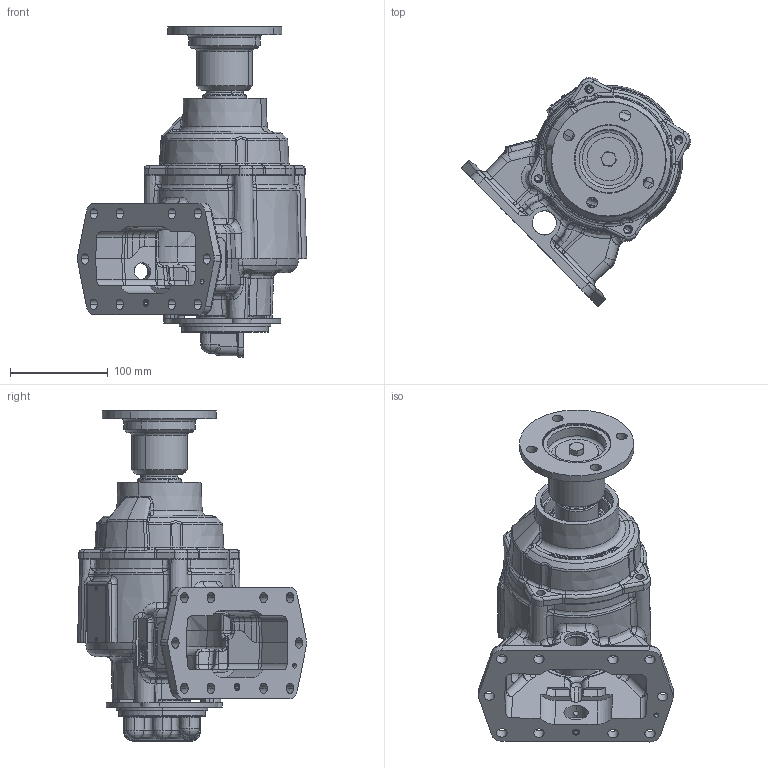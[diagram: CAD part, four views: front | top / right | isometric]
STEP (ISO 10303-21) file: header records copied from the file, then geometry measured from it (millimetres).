
FILE_DESCRIPTION (( 'STEP AP203' ), '1' );
FILE_NAME ('A30-A10XX-MX5X4PX.STEP', '2023-03-07T20:05:50', ( '' ), ( '' ), 'SwSTEP 2.0', 'SolidWorks 2021', '' );
FILE_SCHEMA (( 'CONFIG_CONTROL_DESIGN' ));
Length unit declared in the file: inch
Products named in the file (10): 10T43097; 15T43460_OUTPUT COVER, TITAN BEARING; 21T20092_66193; 15T64348_DIECAST DESIGN; 19T38266_66194; A30-A10XX-MX5X4PX; 06T63155_66191_06T63155; 01T43513_5Arrangement; 49T43434_66196_SHEET METAL; 14T31499_66195
Assembly tree (9 placements, depth 2):
  A30-A10XX-MX5X4PX
    01T43513_5Arrangement
    06T63155_66191_06T63155
    10T43097
    21T20092_66193
    19T38266_66194
    49T43434_66196_SHEET METAL
    14T31499_66195
    15T43460_OUTPUT COVER, TITAN BEARING
    15T64348_DIECAST DESIGN
Bounding box: 235.16 x 235.02 x 338.61 mm (x, y, z)
Volume: 1908532.3 mm3; surface area: 482756.8 mm2
Topology: 21 solids, 21 shells, 2626 faces, 6660 edges, 4089 vertices
Faces by surface type: plane 937, bspline 714, cylinder 508, cone 317, torus 150
Entity records: 119434 total; most frequent: CARTESIAN_POINT 60370, ORIENTED_EDGE 13212, DIRECTION 10628, EDGE_CURVE 6606, VERTEX_POINT 4089, AXIS2_PLACEMENT_3D 3936, EDGE_LOOP 2817, VECTOR 2756
